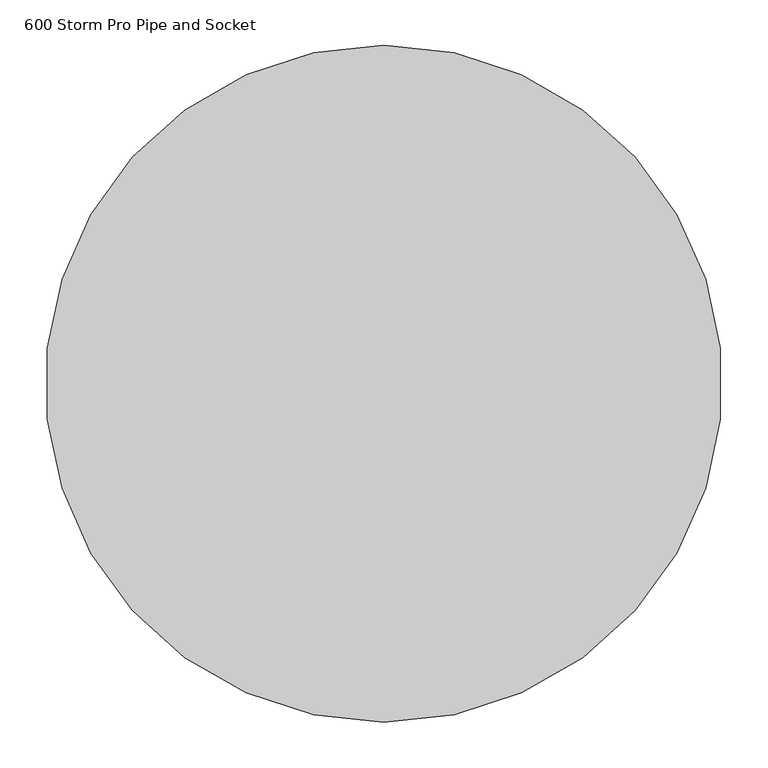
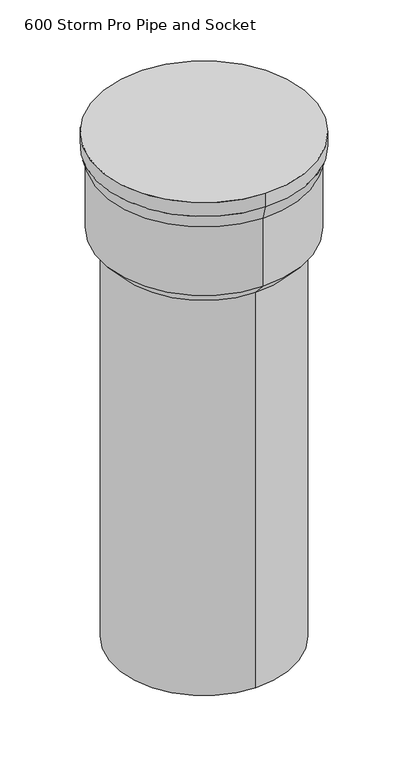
"""IFC4 building model written with IfcOpenShell, lengths in millimetres: proxy geometry, 600 Storm Pro Pipe and Socket."""

from ifc_helpers import new_model, si_unit, frame, origin, place, context, project, spatial, polyline, circle_curve, source, transform, mapped, element, save
from ifc_brep_helpers import plane_surface, cylinder_surface, revolved_surface, advanced_brep


def proxy_600_storm_pro_pipe_and_socket_19742617(model_context):
    return source(origin(), model_context, "Body", "AdvancedBrep", [
        advanced_brep(
        [(0.0, 312.0, 2700.0), (0.0, 357.0, 2750.0), (0.0, -357.0, 2750.0), (0.0, -312.0, 2700.0), (0.0, 312.0, 1250.0), (0.0, -312.0, 1250.0), (0.0, 372.0, 3050.0), (0.0, 372.0, 3100.0), (0.0, -372.0, 3100.0), (0.0, -372.0, 3050.0), (0.0, 357.0, 3000.0), (0.0, -357.0, 3000.0), (-154.2934328, -271.1780533, 1250.0)],
        [
            (0, 1),
            (1, 2, circle_curve(frame((0.0, 0.0, 2750.0), z_axis=(0.0, 0.0, -1.0), x_axis=(0.0, -1.0, 0.0)), 357.0)),
            (2, 3),
            (3, 0, circle_curve(frame((0.0, 0.0, 2700.0), z_axis=(0.0, 0.0, 1.0), x_axis=(0.0, -1.0, 0.0)), 312.0)),
            (4, 0),
            (3, 5),
            (5, 4, circle_curve(frame((0.0, 0.0, 1250.0), z_axis=(0.0, 0.0, 1.0), x_axis=(0.0, 1.0, 0.0)), 312.0)),
            (6, 7),
            (7, 8, circle_curve(frame((0.0, 0.0, 3100.0), z_axis=(0.0, 0.0, -1.0), x_axis=(0.0, 1.0, 0.0)), 372.0)),
            (8, 9),
            (9, 6, circle_curve(frame((0.0, 0.0, 3050.0), z_axis=(0.0, 0.0, 1.0), x_axis=(0.0, 1.0, 0.0)), 372.0)),
            (10, 6),
            (9, 11),
            (11, 10, circle_curve(frame((0.0, 0.0, 3000.0), z_axis=(0.0, 0.0, 1.0), x_axis=(0.0, -1.0, 0.0)), 357.0)),
            (1, 10),
            (11, 2),
            (7, 8, circle_curve(frame((0.0, 0.0, 3100.0), z_axis=(0.0, 0.0, 1.0), x_axis=(0.0, 1.0, 0.0)), 372.0)),
            (5, 12, circle_curve(frame((0.0, 0.0, 1250.0), z_axis=(0.0, 0.0, -1.0), x_axis=(0.0, 1.0, 0.0)), 312.0)),
            (12, 4, circle_curve(frame((0.0, 0.0, 1250.0), z_axis=(0.0, 0.0, -1.0), x_axis=(0.0, 1.0, 0.0)), 312.0)),
            (1, 2, circle_curve(frame((0.0, 0.0, 2750.0), z_axis=(0.0, 0.0, 1.0), x_axis=(0.0, 1.0, 0.0)), 357.0)),
            (11, 10, circle_curve(frame((0.0, 0.0, 3000.0), z_axis=(0.0, 0.0, -1.0), x_axis=(0.0, 1.0, 0.0)), 357.0)),
            (9, 6, circle_curve(frame((0.0, 0.0, 3050.0), z_axis=(0.0, 0.0, -1.0), x_axis=(0.0, 1.0, 0.0)), 372.0)),
            (3, 0, circle_curve(frame((0.0, 0.0, 2700.0), z_axis=(0.0, 0.0, -1.0), x_axis=(0.0, 1.0, 0.0)), 312.0)),
        ],
        [
            revolved_surface(polyline([(0.0, 312.0000000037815, 2700.0), (0.0, 357.0, 2750.0)]), (0.0, 0.0, 2353.3333333), (0.0, 0.0, 1.0)),
            cylinder_surface(frame((0.0, 0.0, 1350.0), z_axis=(0.0, 0.0, 1.0), x_axis=(0.0, 1.0, 0.0)), 312.0),
            cylinder_surface(frame((0.0, 0.0, 3075.0), z_axis=(0.0, 0.0, 1.0), x_axis=(0.0, 1.0, 0.0)), 372.0),
            revolved_surface(polyline([(0.0, 357.0, 3000.0), (0.0, 372.0, 3050.0)]), (0.0, 0.0, 1810.0), (0.0, 0.0, 1.0)),
            cylinder_surface(frame((0.0, 0.0, 2875.0), z_axis=(0.0, 0.0, 1.0), x_axis=(0.0, 1.0, 0.0)), 357.0),
            plane_surface(frame((0.0, 360.0, 3100.0), z_axis=(0.0, 0.0, 1.0), x_axis=(1.0, 0.0, 0.0))),
            plane_surface(frame((0.0, 0.0, 1250.0), z_axis=(0.0, 0.0, -1.0000000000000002), x_axis=(-0.8644449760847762, -0.5027274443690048, 0.0))),
        ],
        [
            (0, [[1, 2, 3, 4]]),
            (1, [[5, -4, 6, 7]]),
            (2, [[8, 9, 10, 11]]),
            (3, [[12, -11, 13, 14]]),
            (4, [[15, -14, 16, -2]]),
            (5, [[17, -9]]),
            (6, [[18, 19, -7]]),
            (4, [[-15, 20, -16, 21]]),
            (3, [[-12, -21, -13, 22]]),
            (2, [[-8, -22, -10, -17]]),
            (1, [[-5, -19, -18, -6, 23]]),
            (0, [[-1, -23, -3, -20]]),
        ],
    ),
    ])


if __name__ == "__main__":
    model = new_model("IFC4")
    model_context = context("Model", 3, world=origin())
    ifc_project = project(units=[si_unit("LENGTHUNIT", "METRE", prefix="MILLI")], contexts=[model_context])
    site = spatial("IfcSite", under=ifc_project)
    building = spatial("IfcBuilding", under=site)
    placement = place(None, origin())
    proxy_600_storm_pro_pipe_and_socket_shape = proxy_600_storm_pro_pipe_and_socket_19742617(model_context)
    element("IfcBuildingElementProxy", 1, Name="600 Storm Pro Pipe and Socket", ObjectType="600 Storm Pro Pipe and Socket", at=placement, inside=building, context=model_context, shape_type="MappedRepresentation", body=[
        mapped(proxy_600_storm_pro_pipe_and_socket_shape, transform((0.0, 0.0, 0.0), x_axis=(1.0, 0.0, 0.0), y_axis=(0.0, 1.0, 0.0), z_axis=(0.0, 0.0, 1.0))),
    ])
    save(model, "model.ifc")
